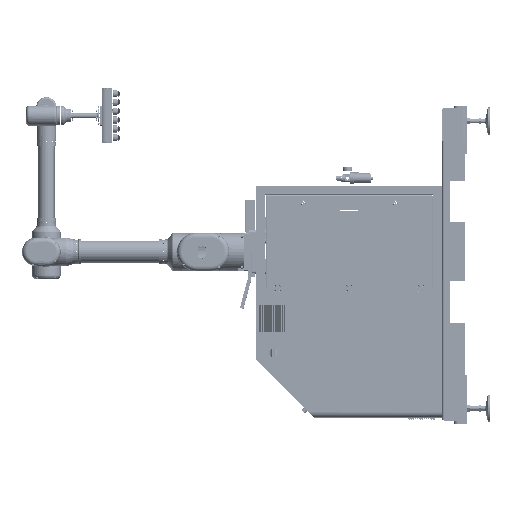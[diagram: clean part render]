
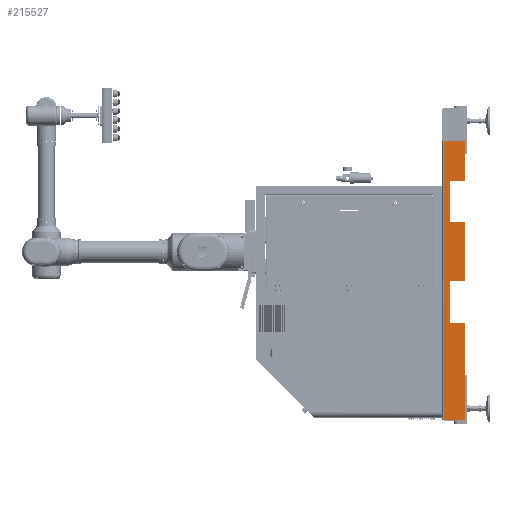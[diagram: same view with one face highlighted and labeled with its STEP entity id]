
A CAD part, left-side view. The second image highlights one B-rep face of the part: STEP entity #215527.
In plain terms, the highlighted planar face has unit normal (-1, 0, 0).
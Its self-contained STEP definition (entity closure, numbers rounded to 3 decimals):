
#1144 = ORIENTED_EDGE ( 'NONE', *, *, #140450, .F. ) ;
#3979 = CARTESIAN_POINT ( 'NONE',  ( -450., -125., 760. ) ) ;
#9853 = VECTOR ( 'NONE', #105342, 1000. ) ;
#14503 = EDGE_CURVE ( 'NONE', #446835, #339740, #296024, .T. ) ;
#14679 = VECTOR ( 'NONE', #153571, 1000. ) ;
#17938 = CARTESIAN_POINT ( 'NONE',  ( -450., -10., 760. ) ) ;
#18497 = EDGE_CURVE ( 'NONE', #304355, #279819, #75341, .T. ) ;
#23801 = DIRECTION ( 'NONE',  ( 0., -1., 0. ) ) ;
#24410 = AXIS2_PLACEMENT_3D ( 'NONE', #187599, #346097, #420512 ) ;
#24858 = ORIENTED_EDGE ( 'NONE', *, *, #319099, .F. ) ;
#27162 = LINE ( 'NONE', #132678, #190395 ) ;
#29500 = CARTESIAN_POINT ( 'NONE',  ( -450., -125., 5.5 ) ) ;
#30412 = CARTESIAN_POINT ( 'NONE',  ( -450., -120., 550.5 ) ) ;
#33998 = VECTOR ( 'NONE', #448137, 1000. ) ;
#34370 = ORIENTED_EDGE ( 'NONE', *, *, #192114, .F. ) ;
#38860 = CARTESIAN_POINT ( 'NONE',  ( -450., -125., 315.5 ) ) ;
#42329 = LINE ( 'NONE', #184164, #482998 ) ;
#52596 = ORIENTED_EDGE ( 'NONE', *, *, #335232, .T. ) ;
#65029 = EDGE_CURVE ( 'NONE', #240310, #339740, #327562, .T. ) ;
#67626 = CARTESIAN_POINT ( 'NONE',  ( -450., -45., 320.5 ) ) ;
#69191 = LINE ( 'NONE', #79373, #406639 ) ;
#75341 = LINE ( 'NONE', #148987, #117958 ) ;
#75441 = AXIS2_PLACEMENT_3D ( 'NONE', #30412, #185678, #94206 ) ;
#79373 = CARTESIAN_POINT ( 'NONE',  ( -450., 0., 545.5 ) ) ;
#84649 = VERTEX_POINT ( 'NONE', #353369 ) ;
#87381 = CARTESIAN_POINT ( 'NONE',  ( -450., -45., 545.5 ) ) ;
#89968 = EDGE_CURVE ( 'NONE', #84649, #413647, #136651, .T. ) ;
#90641 = ORIENTED_EDGE ( 'NONE', *, *, #251045, .F. ) ;
#92125 = ORIENTED_EDGE ( 'NONE', *, *, #14503, .T. ) ;
#94206 = DIRECTION ( 'NONE',  ( 0., 0., -1. ) ) ;
#96202 = LINE ( 'NONE', #434186, #404133 ) ;
#100055 = CARTESIAN_POINT ( 'NONE',  ( -450., -120., 320.5 ) ) ;
#105342 = DIRECTION ( 'NONE',  ( 0., 0., -1. ) ) ;
#107424 = EDGE_CURVE ( 'NONE', #211512, #273141, #165232, .T. ) ;
#112484 = LINE ( 'NONE', #380253, #9853 ) ;
#117675 = CARTESIAN_POINT ( 'NONE',  ( -450., -125., 760. ) ) ;
#117958 = VECTOR ( 'NONE', #457926, 1000. ) ;
#121439 = EDGE_CURVE ( 'NONE', #211512, #363320, #203311, .T. ) ;
#129165 = VERTEX_POINT ( 'NONE', #364295 ) ;
#132678 = CARTESIAN_POINT ( 'NONE',  ( -450., 0., -224.5 ) ) ;
#136651 = LINE ( 'NONE', #17938, #33998 ) ;
#138986 = CARTESIAN_POINT ( 'NONE',  ( -450., -120., 315.5 ) ) ;
#140450 = EDGE_CURVE ( 'NONE', #84649, #240310, #42329, .T. ) ;
#146014 = LINE ( 'NONE', #408567, #327110 ) ;
#146699 = CARTESIAN_POINT ( 'NONE',  ( -450., -120., -224.5 ) ) ;
#148987 = CARTESIAN_POINT ( 'NONE',  ( -450., -45., 760. ) ) ;
#149322 = DIRECTION ( 'NONE',  ( -1., 0., 0. ) ) ;
#152536 = ORIENTED_EDGE ( 'NONE', *, *, #121439, .T. ) ;
#153571 = DIRECTION ( 'NONE',  ( 0., 1., 0. ) ) ;
#162508 = DIRECTION ( 'NONE',  ( 0., 0., -1. ) ) ;
#164388 = CARTESIAN_POINT ( 'NONE',  ( -450., -120., -229.5 ) ) ;
#165232 = LINE ( 'NONE', #3979, #461281 ) ;
#173674 = FACE_OUTER_BOUND ( 'NONE', #190169, .T. ) ;
#176622 = VECTOR ( 'NONE', #245765, 1000. ) ;
#181162 = LINE ( 'NONE', #260549, #464994 ) ;
#184164 = CARTESIAN_POINT ( 'NONE',  ( -450., 0., 760. ) ) ;
#185678 = DIRECTION ( 'NONE',  ( -1., 0., 0. ) ) ;
#187326 = CARTESIAN_POINT ( 'NONE',  ( -450., -125., 760. ) ) ;
#187599 = CARTESIAN_POINT ( 'NONE',  ( -450., 0., 760. ) ) ;
#190169 = EDGE_LOOP ( 'NONE', ( #436921, #152536, #426793, #392084, #34370, #437698, #90641, #320927, #382922, #456193, #24858, #92125, #235885, #1144, #431152, #52596 ) ) ;
#190395 = VECTOR ( 'NONE', #402673, 1000. ) ;
#192114 = EDGE_CURVE ( 'NONE', #129165, #279819, #479578, .T. ) ;
#198590 = AXIS2_PLACEMENT_3D ( 'NONE', #138986, #326318, #327994 ) ;
#203311 = CIRCLE ( 'NONE', #288810, 5. ) ;
#211512 = VERTEX_POINT ( 'NONE', #217697 ) ;
#215527 = ADVANCED_FACE ( 'NONE', ( #173674 ), #379893, .F. ) ;
#217497 = DIRECTION ( 'NONE',  ( 0., 0., -1. ) ) ;
#217697 = CARTESIAN_POINT ( 'NONE',  ( -450., -125., -229.5 ) ) ;
#225950 = VERTEX_POINT ( 'NONE', #87381 ) ;
#235885 = ORIENTED_EDGE ( 'NONE', *, *, #65029, .F. ) ;
#236299 = DIRECTION ( 'NONE',  ( 0., 1., 0. ) ) ;
#240310 = VERTEX_POINT ( 'NONE', #187326 ) ;
#243315 = EDGE_CURVE ( 'NONE', #304355, #363320, #27162, .T. ) ;
#245765 = DIRECTION ( 'NONE',  ( 0., 0., -1. ) ) ;
#251045 = EDGE_CURVE ( 'NONE', #449353, #486813, #112484, .T. ) ;
#258037 = CARTESIAN_POINT ( 'NONE',  ( -450., -120., 545.5 ) ) ;
#259455 = VERTEX_POINT ( 'NONE', #100055 ) ;
#260549 = CARTESIAN_POINT ( 'NONE',  ( -450., -45., 760. ) ) ;
#264571 = CARTESIAN_POINT ( 'NONE',  ( -450., -125., -754.929 ) ) ;
#272691 = CARTESIAN_POINT ( 'NONE',  ( -450., -120., 5.5 ) ) ;
#273141 = VERTEX_POINT ( 'NONE', #264571 ) ;
#279819 = VERTEX_POINT ( 'NONE', #314533 ) ;
#281467 = EDGE_CURVE ( 'NONE', #449353, #259455, #467839, .T. ) ;
#287134 = AXIS2_PLACEMENT_3D ( 'NONE', #272691, #311368, #394077 ) ;
#288810 = AXIS2_PLACEMENT_3D ( 'NONE', #164388, #149322, #217497 ) ;
#296024 = CIRCLE ( 'NONE', #75441, 5. ) ;
#304355 = VERTEX_POINT ( 'NONE', #363826 ) ;
#311368 = DIRECTION ( 'NONE',  ( -1., 0., 0. ) ) ;
#313772 = CARTESIAN_POINT ( 'NONE',  ( -450., 0., 0.5 ) ) ;
#314533 = CARTESIAN_POINT ( 'NONE',  ( -450., -45., 0.5 ) ) ;
#319099 = EDGE_CURVE ( 'NONE', #446835, #225950, #69191, .T. ) ;
#319203 = DIRECTION ( 'NONE',  ( 0., -1., 0. ) ) ;
#320927 = ORIENTED_EDGE ( 'NONE', *, *, #281467, .T. ) ;
#326202 = EDGE_CURVE ( 'NONE', #449292, #259455, #96202, .T. ) ;
#326318 = DIRECTION ( 'NONE',  ( -1., 0., 0. ) ) ;
#327110 = VECTOR ( 'NONE', #23801, 1000. ) ;
#327562 = LINE ( 'NONE', #117675, #176622 ) ;
#327994 = DIRECTION ( 'NONE',  ( 0., 0., -1. ) ) ;
#335232 = EDGE_CURVE ( 'NONE', #413647, #273141, #146014, .T. ) ;
#339740 = VERTEX_POINT ( 'NONE', #370317 ) ;
#346097 = DIRECTION ( 'NONE',  ( 1., 0., 0. ) ) ;
#353369 = CARTESIAN_POINT ( 'NONE',  ( -450., -10., 760. ) ) ;
#363320 = VERTEX_POINT ( 'NONE', #146699 ) ;
#363826 = CARTESIAN_POINT ( 'NONE',  ( -450., -45., -224.5 ) ) ;
#364295 = CARTESIAN_POINT ( 'NONE',  ( -450., -120., 0.5 ) ) ;
#370317 = CARTESIAN_POINT ( 'NONE',  ( -450., -125., 550.5 ) ) ;
#379893 = PLANE ( 'NONE',  #24410 ) ;
#380253 = CARTESIAN_POINT ( 'NONE',  ( -450., -125., 760. ) ) ;
#382922 = ORIENTED_EDGE ( 'NONE', *, *, #326202, .F. ) ;
#392084 = ORIENTED_EDGE ( 'NONE', *, *, #18497, .T. ) ;
#394077 = DIRECTION ( 'NONE',  ( 0., 0., -1. ) ) ;
#399323 = CARTESIAN_POINT ( 'NONE',  ( -450., -10., -754.929 ) ) ;
#402468 = EDGE_CURVE ( 'NONE', #225950, #449292, #181162, .T. ) ;
#402673 = DIRECTION ( 'NONE',  ( 0., -1., 0. ) ) ;
#404133 = VECTOR ( 'NONE', #319203, 1000. ) ;
#406639 = VECTOR ( 'NONE', #236299, 1000. ) ;
#408567 = CARTESIAN_POINT ( 'NONE',  ( -450., 1514.344, -754.929 ) ) ;
#412002 = DIRECTION ( 'NONE',  ( 0., -1., 0. ) ) ;
#413647 = VERTEX_POINT ( 'NONE', #399323 ) ;
#414175 = DIRECTION ( 'NONE',  ( 0., 0., -1. ) ) ;
#420512 = DIRECTION ( 'NONE',  ( 0., 0., -1. ) ) ;
#426793 = ORIENTED_EDGE ( 'NONE', *, *, #243315, .F. ) ;
#431152 = ORIENTED_EDGE ( 'NONE', *, *, #89968, .T. ) ;
#434186 = CARTESIAN_POINT ( 'NONE',  ( -450., 0., 320.5 ) ) ;
#436921 = ORIENTED_EDGE ( 'NONE', *, *, #107424, .F. ) ;
#437698 = ORIENTED_EDGE ( 'NONE', *, *, #478685, .T. ) ;
#446835 = VERTEX_POINT ( 'NONE', #258037 ) ;
#448137 = DIRECTION ( 'NONE',  ( 0., 0., -1. ) ) ;
#449292 = VERTEX_POINT ( 'NONE', #67626 ) ;
#449353 = VERTEX_POINT ( 'NONE', #38860 ) ;
#456193 = ORIENTED_EDGE ( 'NONE', *, *, #402468, .F. ) ;
#457926 = DIRECTION ( 'NONE',  ( 0., 0., 1. ) ) ;
#461281 = VECTOR ( 'NONE', #162508, 1000. ) ;
#464994 = VECTOR ( 'NONE', #414175, 1000. ) ;
#467839 = CIRCLE ( 'NONE', #198590, 5. ) ;
#468619 = CIRCLE ( 'NONE', #287134, 5. ) ;
#478685 = EDGE_CURVE ( 'NONE', #129165, #486813, #468619, .T. ) ;
#479578 = LINE ( 'NONE', #313772, #14679 ) ;
#482998 = VECTOR ( 'NONE', #412002, 1000. ) ;
#486813 = VERTEX_POINT ( 'NONE', #29500 ) ;
